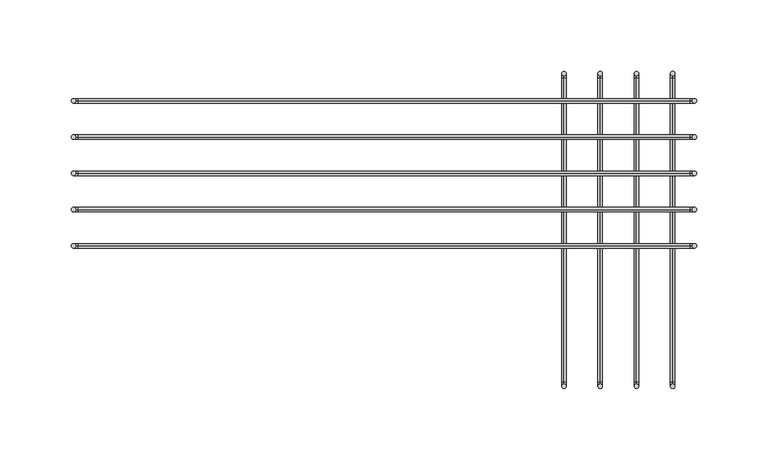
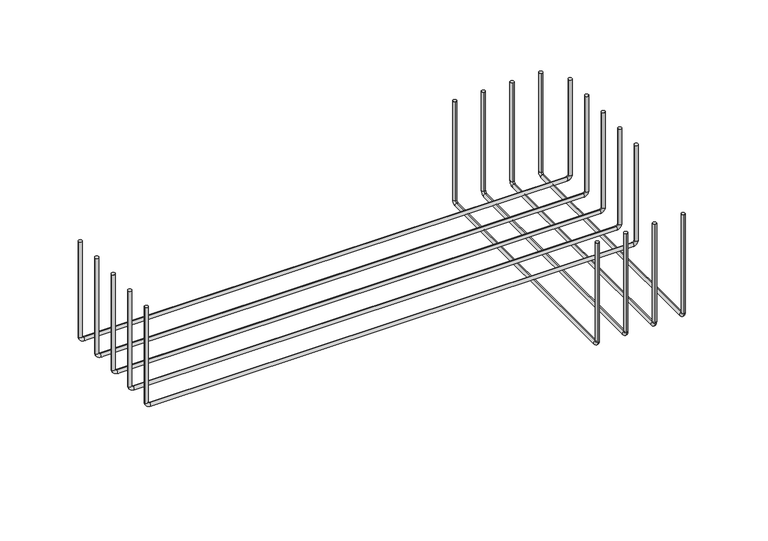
"""IFC4 building model written with IfcOpenShell, lengths in millimetres: furniture geometry."""

from ifc_helpers import new_model, si_unit, point, frame, origin, place, context, project, spatial, circle_curve, ellipse_curve, trimmed, source, transform, mapped, element, save
from ifc_brep_helpers import plane_surface, cylinder_surface, revolved_surface, advanced_brep


def furniture_cac80d98(model_context):
    return source(origin(), model_context, "Body", "AdvancedBrep", [
        advanced_brep(
        [(219.075, 49.2851276, 1249.3942846), (215.9, 49.2851276, 1249.3942846), (-219.075, 49.2851276, 1249.3942846), (-215.9, 49.2851276, 1249.3942846), (219.075, 49.2851276, 1159.700988), (215.9, 49.2851276, 1159.700988), (214.3125, 49.2851276, 1158.113488), (214.3125, 49.2851276, 1154.938488), (-214.3125, 49.2851276, 1154.938488), (-214.3125, 49.2851276, 1158.113488), (-215.9, 49.2851276, 1159.700988), (-219.075, 49.2851276, 1159.700988)],
        [
            (0, 1, circle_curve(frame((217.4875, 49.2851276, 1249.3942846), z_axis=(0.0, 0.0, 1.0), x_axis=(0.0, 1.0, 0.0)), 1.5875)),
            (1, 0, circle_curve(frame((217.4875, 49.2851276, 1249.3942846), z_axis=(0.0, 0.0, 1.0), x_axis=(0.0, 1.0, 0.0)), 1.5875)),
            (2, 3, circle_curve(frame((-217.4875, 49.2851276, 1249.3942846), z_axis=(0.0, 0.0, 1.0), x_axis=(0.0, 1.0, 0.0)), 1.5875)),
            (3, 2, circle_curve(frame((-217.4875, 49.2851276, 1249.3942846), z_axis=(0.0, 0.0, 1.0), x_axis=(0.0, 1.0, 0.0)), 1.5875)),
            (0, 4),
            (4, 5, circle_curve(frame((217.4875, 49.2851276, 1159.700988), z_axis=(0.0, 0.0, 1.0), x_axis=(0.0, 1.0, 0.0)), 1.5875)),
            (5, 1),
            (5, 4, circle_curve(frame((217.4875, 49.2851276, 1159.700988), z_axis=(0.0, 0.0, 1.0), x_axis=(0.0, 1.0, 0.0)), 1.5875)),
            (6, 7, circle_curve(frame((214.3125, 49.2851276, 1156.525988), z_axis=(-1.0, 0.0, 0.0), x_axis=(0.0, 1.0, 0.0)), 1.5875)),
            (7, 8),
            (8, 9, circle_curve(frame((-214.3125, 49.2851276, 1156.525988), z_axis=(1.0, 0.0, 0.0), x_axis=(0.0, 1.0, 0.0)), 1.5875)),
            (9, 6),
            (7, 6, circle_curve(frame((214.3125, 49.2851276, 1156.525988), z_axis=(-1.0, 0.0, 0.0), x_axis=(0.0, 1.0, 0.0)), 1.5875)),
            (9, 8, circle_curve(frame((-214.3125, 49.2851276, 1156.525988), z_axis=(1.0, 0.0, 0.0), x_axis=(0.0, 1.0, 0.0)), 1.5875)),
            (10, 11, circle_curve(frame((-217.4875, 49.2851276, 1159.700988), z_axis=(0.0, 0.0, 1.0), x_axis=(0.0, 1.0, 0.0)), 1.5875)),
            (11, 2),
            (3, 10),
            (11, 10, circle_curve(frame((-217.4875, 49.2851276, 1159.700988), z_axis=(0.0, 0.0, 1.0), x_axis=(0.0, 1.0, 0.0)), 1.5875)),
            (6, 5, circle_curve(frame((214.3125, 49.2851276, 1159.700988), z_axis=(0.0, -1.0, 0.0), x_axis=(1.0, 0.0, 0.0)), 1.5875)),
            (4, 7, circle_curve(frame((214.3125, 49.2851276, 1159.700988), z_axis=(0.0, 1.0, 0.0), x_axis=(1.0, 0.0, 0.0)), 4.7625)),
            (10, 9, circle_curve(frame((-214.3125, 49.2851276, 1159.700988), z_axis=(0.0, -1.0, 0.0), x_axis=(0.0, 0.0, -1.0)), 1.5875)),
            (8, 11, circle_curve(frame((-214.3125, 49.2851276, 1159.700988), z_axis=(0.0, 1.0, 0.0), x_axis=(0.0, 0.0, -1.0)), 4.7625)),
        ],
        [
            plane_surface(frame((219.075, 49.2851276, 1249.3942846), z_axis=(0.0, 0.0, 1.0), x_axis=(0.0, 1.0, 0.0))),
            plane_surface(frame((-219.075, 49.2851276, 1249.3942846), z_axis=(0.0, 0.0, 1.0), x_axis=(0.0, 1.0, 0.0))),
            cylinder_surface(frame((217.4875, 49.2851276, 1249.3942846), z_axis=(0.0, 0.0, 1.0), x_axis=(0.0, 1.0, 0.0)), 1.5875),
            cylinder_surface(frame((214.3125, 49.2851276, 1156.525988), z_axis=(1.0, 0.0, 0.0), x_axis=(0.0, 1.0, 0.0)), 1.5875),
            cylinder_surface(frame((-217.4875, 49.2851276, 1159.700988), z_axis=(0.0, 0.0, -1.0), x_axis=(0.0, 1.0, 0.0)), 1.5875),
            revolved_surface(trimmed(ellipse_curve(frame((217.4875, 49.2851276, 1159.700988), z_axis=(0.0, 0.0, 1.0), x_axis=(0.0, 1.0, 0.0)), 1.5875, 1.5875), [point((219.075, 49.2851276, 1159.700988))], [point((215.9, 49.2851276, 1159.700988))], True, "CARTESIAN"), (214.3125, 49.2851276, 1159.700988), (0.0, 1.0, 0.0)),
            revolved_surface(trimmed(ellipse_curve(frame((217.4875, 49.2851276, 1159.700988), z_axis=(0.0, 0.0, 1.0), x_axis=(0.0, 1.0, 0.0)), 1.5875, 1.5875), [point((215.9, 49.2851276, 1159.700988))], [point((219.075, 49.2851276, 1159.700988))], True, "CARTESIAN"), (214.3125, 49.2851276, 1159.700988), (0.0, 1.0, 0.0)),
            revolved_surface(trimmed(ellipse_curve(frame((-214.3125, 49.2851276, 1156.525988), z_axis=(1.0, 0.0, 0.0), x_axis=(0.0, 1.0, 0.0)), 1.5875, 1.5875), [point((-214.3125, 49.2851276, 1154.938488))], [point((-214.3125, 49.2851276, 1158.113488))], True, "CARTESIAN"), (-214.3125, 49.2851276, 1159.700988), (0.0, 1.0, 0.0)),
            revolved_surface(trimmed(ellipse_curve(frame((-214.3125, 49.2851276, 1156.525988), z_axis=(1.0, 0.0, 0.0), x_axis=(0.0, 1.0, 0.0)), 1.5875, 1.5875), [point((-214.3125, 49.2851276, 1158.113488))], [point((-214.3125, 49.2851276, 1154.938488))], True, "CARTESIAN"), (-214.3125, 49.2851276, 1159.700988), (0.0, 1.0, 0.0)),
        ],
        [
            (0, [[1, 2]]),
            (1, [[3, 4]]),
            (2, [[-1, 5, 6, 7]]),
            (2, [[-2, -7, 8, -5]]),
            (3, [[9, 10, 11, 12]]),
            (3, [[13, -12, 14, -10]]),
            (4, [[15, 16, -4, 17]]),
            (4, [[18, -17, -3, -16]]),
            (5, [[19, -6, 20, -9]]),
            (6, [[-20, -8, -19, -13]]),
            (7, [[21, -11, 22, -15]]),
            (8, [[-22, -14, -21, -18]]),
        ],
    ),
        advanced_brep(
        [(219.075, 23.8851276, 1249.3942846), (215.9, 23.8851276, 1249.3942846), (-219.075, 23.8851276, 1249.3942846), (-215.9, 23.8851276, 1249.3942846), (219.075, 23.8851276, 1159.700988), (215.9, 23.8851276, 1159.700988), (214.3125, 23.8851276, 1158.113488), (214.3125, 23.8851276, 1154.938488), (-214.3125, 23.8851276, 1154.938488), (-214.3125, 23.8851276, 1158.113488), (-215.9, 23.8851276, 1159.700988), (-219.075, 23.8851276, 1159.700988)],
        [
            (0, 1, circle_curve(frame((217.4875, 23.8851276, 1249.3942846), z_axis=(0.0, 0.0, 1.0), x_axis=(0.0, 1.0, 0.0)), 1.5875)),
            (1, 0, circle_curve(frame((217.4875, 23.8851276, 1249.3942846), z_axis=(0.0, 0.0, 1.0), x_axis=(0.0, 1.0, 0.0)), 1.5875)),
            (2, 3, circle_curve(frame((-217.4875, 23.8851276, 1249.3942846), z_axis=(0.0, 0.0, 1.0), x_axis=(0.0, 1.0, 0.0)), 1.5875)),
            (3, 2, circle_curve(frame((-217.4875, 23.8851276, 1249.3942846), z_axis=(0.0, 0.0, 1.0), x_axis=(0.0, 1.0, 0.0)), 1.5875)),
            (0, 4),
            (4, 5, circle_curve(frame((217.4875, 23.8851276, 1159.700988), z_axis=(0.0, 0.0, 1.0), x_axis=(0.0, 1.0, 0.0)), 1.5875)),
            (5, 1),
            (5, 4, circle_curve(frame((217.4875, 23.8851276, 1159.700988), z_axis=(0.0, 0.0, 1.0), x_axis=(0.0, 1.0, 0.0)), 1.5875)),
            (6, 7, circle_curve(frame((214.3125, 23.8851276, 1156.525988), z_axis=(-1.0, 0.0, 0.0), x_axis=(0.0, 1.0, 0.0)), 1.5875)),
            (7, 8),
            (8, 9, circle_curve(frame((-214.3125, 23.8851276, 1156.525988), z_axis=(1.0, 0.0, 0.0), x_axis=(0.0, 1.0, 0.0)), 1.5875)),
            (9, 6),
            (7, 6, circle_curve(frame((214.3125, 23.8851276, 1156.525988), z_axis=(-1.0, 0.0, 0.0), x_axis=(0.0, 1.0, 0.0)), 1.5875)),
            (9, 8, circle_curve(frame((-214.3125, 23.8851276, 1156.525988), z_axis=(1.0, 0.0, 0.0), x_axis=(0.0, 1.0, 0.0)), 1.5875)),
            (10, 11, circle_curve(frame((-217.4875, 23.8851276, 1159.700988), z_axis=(0.0, 0.0, 1.0), x_axis=(0.0, 1.0, 0.0)), 1.5875)),
            (11, 2),
            (3, 10),
            (11, 10, circle_curve(frame((-217.4875, 23.8851276, 1159.700988), z_axis=(0.0, 0.0, 1.0), x_axis=(0.0, 1.0, 0.0)), 1.5875)),
            (6, 5, circle_curve(frame((214.3125, 23.8851276, 1159.700988), z_axis=(0.0, -1.0, 0.0), x_axis=(1.0, 0.0, 0.0)), 1.5875)),
            (4, 7, circle_curve(frame((214.3125, 23.8851276, 1159.700988), z_axis=(0.0, 1.0, 0.0), x_axis=(1.0, 0.0, 0.0)), 4.7625)),
            (10, 9, circle_curve(frame((-214.3125, 23.8851276, 1159.700988), z_axis=(0.0, -1.0, 0.0), x_axis=(0.0, 0.0, -1.0)), 1.5875)),
            (8, 11, circle_curve(frame((-214.3125, 23.8851276, 1159.700988), z_axis=(0.0, 1.0, 0.0), x_axis=(0.0, 0.0, -1.0)), 4.7625)),
        ],
        [
            plane_surface(frame((219.075, 23.8851276, 1249.3942846), z_axis=(0.0, 0.0, 1.0), x_axis=(0.0, 1.0, 0.0))),
            plane_surface(frame((-219.075, 23.8851276, 1249.3942846), z_axis=(0.0, 0.0, 1.0), x_axis=(0.0, 1.0, 0.0))),
            cylinder_surface(frame((217.4875, 23.8851276, 1249.3942846), z_axis=(0.0, 0.0, 1.0), x_axis=(0.0, 1.0, 0.0)), 1.5875),
            cylinder_surface(frame((214.3125, 23.8851276, 1156.525988), z_axis=(1.0, 0.0, 0.0), x_axis=(0.0, 1.0, 0.0)), 1.5875),
            cylinder_surface(frame((-217.4875, 23.8851276, 1159.700988), z_axis=(0.0, 0.0, -1.0), x_axis=(0.0, 1.0, 0.0)), 1.5875),
            revolved_surface(trimmed(ellipse_curve(frame((217.4875, 23.8851276, 1159.700988), z_axis=(0.0, 0.0, 1.0), x_axis=(0.0, 1.0, 0.0)), 1.5875, 1.5875), [point((219.075, 23.8851276, 1159.700988))], [point((215.9, 23.8851276, 1159.700988))], True, "CARTESIAN"), (214.3125, 23.8851276, 1159.700988), (0.0, 1.0, 0.0)),
            revolved_surface(trimmed(ellipse_curve(frame((217.4875, 23.8851276, 1159.700988), z_axis=(0.0, 0.0, 1.0), x_axis=(0.0, 1.0, 0.0)), 1.5875, 1.5875), [point((215.9, 23.8851276, 1159.700988))], [point((219.075, 23.8851276, 1159.700988))], True, "CARTESIAN"), (214.3125, 23.8851276, 1159.700988), (0.0, 1.0, 0.0)),
            revolved_surface(trimmed(ellipse_curve(frame((-214.3125, 23.8851276, 1156.525988), z_axis=(1.0, 0.0, 0.0), x_axis=(0.0, 1.0, 0.0)), 1.5875, 1.5875), [point((-214.3125, 23.8851276, 1154.938488))], [point((-214.3125, 23.8851276, 1158.113488))], True, "CARTESIAN"), (-214.3125, 23.8851276, 1159.700988), (0.0, 1.0, 0.0)),
            revolved_surface(trimmed(ellipse_curve(frame((-214.3125, 23.8851276, 1156.525988), z_axis=(1.0, 0.0, 0.0), x_axis=(0.0, 1.0, 0.0)), 1.5875, 1.5875), [point((-214.3125, 23.8851276, 1158.113488))], [point((-214.3125, 23.8851276, 1154.938488))], True, "CARTESIAN"), (-214.3125, 23.8851276, 1159.700988), (0.0, 1.0, 0.0)),
        ],
        [
            (0, [[1, 2]]),
            (1, [[3, 4]]),
            (2, [[-1, 5, 6, 7]]),
            (2, [[-2, -7, 8, -5]]),
            (3, [[9, 10, 11, 12]]),
            (3, [[13, -12, 14, -10]]),
            (4, [[15, 16, -4, 17]]),
            (4, [[18, -17, -3, -16]]),
            (5, [[19, -6, 20, -9]]),
            (6, [[-20, -8, -19, -13]]),
            (7, [[21, -11, 22, -15]]),
            (8, [[-22, -14, -21, -18]]),
        ],
    ),
        advanced_brep(
        [(219.075, -1.5148724, 1249.3942846), (215.9, -1.5148724, 1249.3942846), (-219.075, -1.5148724, 1249.3942846), (-215.9, -1.5148724, 1249.3942846), (219.075, -1.5148724, 1159.700988), (215.9, -1.5148724, 1159.700988), (214.3125, -1.5148724, 1158.113488), (214.3125, -1.5148724, 1154.938488), (-214.3125, -1.5148724, 1154.938488), (-214.3125, -1.5148724, 1158.113488), (-215.9, -1.5148724, 1159.700988), (-219.075, -1.5148724, 1159.700988)],
        [
            (0, 1, circle_curve(frame((217.4875, -1.5148724, 1249.3942846), z_axis=(0.0, 0.0, 1.0), x_axis=(0.0, 1.0, 0.0)), 1.5875)),
            (1, 0, circle_curve(frame((217.4875, -1.5148724, 1249.3942846), z_axis=(0.0, 0.0, 1.0), x_axis=(0.0, 1.0, 0.0)), 1.5875)),
            (2, 3, circle_curve(frame((-217.4875, -1.5148724, 1249.3942846), z_axis=(0.0, 0.0, 1.0), x_axis=(0.0, 1.0, 0.0)), 1.5875)),
            (3, 2, circle_curve(frame((-217.4875, -1.5148724, 1249.3942846), z_axis=(0.0, 0.0, 1.0), x_axis=(0.0, 1.0, 0.0)), 1.5875)),
            (0, 4),
            (4, 5, circle_curve(frame((217.4875, -1.5148724, 1159.700988), z_axis=(0.0, 0.0, 1.0), x_axis=(0.0, 1.0, 0.0)), 1.5875)),
            (5, 1),
            (5, 4, circle_curve(frame((217.4875, -1.5148724, 1159.700988), z_axis=(0.0, 0.0, 1.0), x_axis=(0.0, 1.0, 0.0)), 1.5875)),
            (6, 7, circle_curve(frame((214.3125, -1.5148724, 1156.525988), z_axis=(-1.0, 0.0, 0.0), x_axis=(0.0, 1.0, 0.0)), 1.5875)),
            (7, 8),
            (8, 9, circle_curve(frame((-214.3125, -1.5148724, 1156.525988), z_axis=(1.0, 0.0, 0.0), x_axis=(0.0, 1.0, 0.0)), 1.5875)),
            (9, 6),
            (7, 6, circle_curve(frame((214.3125, -1.5148724, 1156.525988), z_axis=(-1.0, 0.0, 0.0), x_axis=(0.0, 1.0, 0.0)), 1.5875)),
            (9, 8, circle_curve(frame((-214.3125, -1.5148724, 1156.525988), z_axis=(1.0, 0.0, 0.0), x_axis=(0.0, 1.0, 0.0)), 1.5875)),
            (10, 11, circle_curve(frame((-217.4875, -1.5148724, 1159.700988), z_axis=(0.0, 0.0, 1.0), x_axis=(0.0, 1.0, 0.0)), 1.5875)),
            (11, 2),
            (3, 10),
            (11, 10, circle_curve(frame((-217.4875, -1.5148724, 1159.700988), z_axis=(0.0, 0.0, 1.0), x_axis=(0.0, 1.0, 0.0)), 1.5875)),
            (6, 5, circle_curve(frame((214.3125, -1.5148724, 1159.700988), z_axis=(0.0, -1.0, 0.0), x_axis=(1.0, 0.0, 0.0)), 1.5875)),
            (4, 7, circle_curve(frame((214.3125, -1.5148724, 1159.700988), z_axis=(0.0, 1.0, 0.0), x_axis=(1.0, 0.0, 0.0)), 4.7625)),
            (10, 9, circle_curve(frame((-214.3125, -1.5148724, 1159.700988), z_axis=(0.0, -1.0, 0.0), x_axis=(0.0, 0.0, -1.0)), 1.5875)),
            (8, 11, circle_curve(frame((-214.3125, -1.5148724, 1159.700988), z_axis=(0.0, 1.0, 0.0), x_axis=(0.0, 0.0, -1.0)), 4.7625)),
        ],
        [
            plane_surface(frame((219.075, -1.5148724, 1249.3942846), z_axis=(0.0, 0.0, 1.0), x_axis=(0.0, 1.0, 0.0))),
            plane_surface(frame((-219.075, -1.5148724, 1249.3942846), z_axis=(0.0, 0.0, 1.0), x_axis=(0.0, 1.0, 0.0))),
            cylinder_surface(frame((217.4875, -1.5148724, 1249.3942846), z_axis=(0.0, 0.0, 1.0), x_axis=(0.0, 1.0, 0.0)), 1.5875),
            cylinder_surface(frame((214.3125, -1.5148724, 1156.525988), z_axis=(1.0, 0.0, 0.0), x_axis=(0.0, 1.0, 0.0)), 1.5875),
            cylinder_surface(frame((-217.4875, -1.5148724, 1159.700988), z_axis=(0.0, 0.0, -1.0), x_axis=(0.0, 1.0, 0.0)), 1.5875),
            revolved_surface(trimmed(ellipse_curve(frame((217.4875, -1.5148724, 1159.700988), z_axis=(0.0, 0.0, 1.0), x_axis=(0.0, 1.0, 0.0)), 1.5875, 1.5875), [point((219.075, -1.5148724, 1159.700988))], [point((215.9, -1.5148724, 1159.700988))], True, "CARTESIAN"), (214.3125, -1.5148724, 1159.700988), (0.0, 1.0, 0.0)),
            revolved_surface(trimmed(ellipse_curve(frame((217.4875, -1.5148724, 1159.700988), z_axis=(0.0, 0.0, 1.0), x_axis=(0.0, 1.0, 0.0)), 1.5875, 1.5875), [point((215.9, -1.5148724, 1159.700988))], [point((219.075, -1.5148724, 1159.700988))], True, "CARTESIAN"), (214.3125, -1.5148724, 1159.700988), (0.0, 1.0, 0.0)),
            revolved_surface(trimmed(ellipse_curve(frame((-214.3125, -1.5148724, 1156.525988), z_axis=(1.0, 0.0, 0.0), x_axis=(0.0, 1.0, 0.0)), 1.5875, 1.5875), [point((-214.3125, -1.5148724, 1154.938488))], [point((-214.3125, -1.5148724, 1158.113488))], True, "CARTESIAN"), (-214.3125, -1.5148724, 1159.700988), (0.0, 1.0, 0.0)),
            revolved_surface(trimmed(ellipse_curve(frame((-214.3125, -1.5148724, 1156.525988), z_axis=(1.0, 0.0, 0.0), x_axis=(0.0, 1.0, 0.0)), 1.5875, 1.5875), [point((-214.3125, -1.5148724, 1158.113488))], [point((-214.3125, -1.5148724, 1154.938488))], True, "CARTESIAN"), (-214.3125, -1.5148724, 1159.700988), (0.0, 1.0, 0.0)),
        ],
        [
            (0, [[1, 2]]),
            (1, [[3, 4]]),
            (2, [[-1, 5, 6, 7]]),
            (2, [[-2, -7, 8, -5]]),
            (3, [[9, 10, 11, 12]]),
            (3, [[13, -12, 14, -10]]),
            (4, [[15, 16, -4, 17]]),
            (4, [[18, -17, -3, -16]]),
            (5, [[19, -6, 20, -9]]),
            (6, [[-20, -8, -19, -13]]),
            (7, [[21, -11, 22, -15]]),
            (8, [[-22, -14, -21, -18]]),
        ],
    ),
        advanced_brep(
        [(219.075, -26.9148724, 1249.3942846), (215.9, -26.9148724, 1249.3942846), (-219.075, -26.9148724, 1249.3942846), (-215.9, -26.9148724, 1249.3942846), (219.075, -26.9148724, 1159.700988), (215.9, -26.9148724, 1159.700988), (214.3125, -26.9148724, 1158.113488), (214.3125, -26.9148724, 1154.938488), (-214.3125, -26.9148724, 1154.938488), (-214.3125, -26.9148724, 1158.113488), (-215.9, -26.9148724, 1159.700988), (-219.075, -26.9148724, 1159.700988)],
        [
            (0, 1, circle_curve(frame((217.4875, -26.9148724, 1249.3942846), z_axis=(0.0, 0.0, 1.0), x_axis=(0.0, 1.0, 0.0)), 1.5875)),
            (1, 0, circle_curve(frame((217.4875, -26.9148724, 1249.3942846), z_axis=(0.0, 0.0, 1.0), x_axis=(0.0, 1.0, 0.0)), 1.5875)),
            (2, 3, circle_curve(frame((-217.4875, -26.9148724, 1249.3942846), z_axis=(0.0, 0.0, 1.0), x_axis=(0.0, 1.0, 0.0)), 1.5875)),
            (3, 2, circle_curve(frame((-217.4875, -26.9148724, 1249.3942846), z_axis=(0.0, 0.0, 1.0), x_axis=(0.0, 1.0, 0.0)), 1.5875)),
            (0, 4),
            (4, 5, circle_curve(frame((217.4875, -26.9148724, 1159.700988), z_axis=(0.0, 0.0, 1.0), x_axis=(0.0, 1.0, 0.0)), 1.5875)),
            (5, 1),
            (5, 4, circle_curve(frame((217.4875, -26.9148724, 1159.700988), z_axis=(0.0, 0.0, 1.0), x_axis=(0.0, 1.0, 0.0)), 1.5875)),
            (6, 7, circle_curve(frame((214.3125, -26.9148724, 1156.525988), z_axis=(-1.0, 0.0, 0.0), x_axis=(0.0, 1.0, 0.0)), 1.5875)),
            (7, 8),
            (8, 9, circle_curve(frame((-214.3125, -26.9148724, 1156.525988), z_axis=(1.0, 0.0, 0.0), x_axis=(0.0, 1.0, 0.0)), 1.5875)),
            (9, 6),
            (7, 6, circle_curve(frame((214.3125, -26.9148724, 1156.525988), z_axis=(-1.0, 0.0, 0.0), x_axis=(0.0, 1.0, 0.0)), 1.5875)),
            (9, 8, circle_curve(frame((-214.3125, -26.9148724, 1156.525988), z_axis=(1.0, 0.0, 0.0), x_axis=(0.0, 1.0, 0.0)), 1.5875)),
            (10, 11, circle_curve(frame((-217.4875, -26.9148724, 1159.700988), z_axis=(0.0, 0.0, 1.0), x_axis=(0.0, 1.0, 0.0)), 1.5875)),
            (11, 2),
            (3, 10),
            (11, 10, circle_curve(frame((-217.4875, -26.9148724, 1159.700988), z_axis=(0.0, 0.0, 1.0), x_axis=(0.0, 1.0, 0.0)), 1.5875)),
            (6, 5, circle_curve(frame((214.3125, -26.9148724, 1159.700988), z_axis=(0.0, -1.0, 0.0), x_axis=(1.0, 0.0, 0.0)), 1.5875)),
            (4, 7, circle_curve(frame((214.3125, -26.9148724, 1159.700988), z_axis=(0.0, 1.0, 0.0), x_axis=(1.0, 0.0, 0.0)), 4.7625)),
            (10, 9, circle_curve(frame((-214.3125, -26.9148724, 1159.700988), z_axis=(0.0, -1.0, 0.0), x_axis=(0.0, 0.0, -1.0)), 1.5875)),
            (8, 11, circle_curve(frame((-214.3125, -26.9148724, 1159.700988), z_axis=(0.0, 1.0, 0.0), x_axis=(0.0, 0.0, -1.0)), 4.7625)),
        ],
        [
            plane_surface(frame((219.075, -26.9148724, 1249.3942846), z_axis=(0.0, 0.0, 1.0), x_axis=(0.0, 1.0, 0.0))),
            plane_surface(frame((-219.075, -26.9148724, 1249.3942846), z_axis=(0.0, 0.0, 1.0), x_axis=(0.0, 1.0, 0.0))),
            cylinder_surface(frame((217.4875, -26.9148724, 1249.3942846), z_axis=(0.0, 0.0, 1.0), x_axis=(0.0, 1.0, 0.0)), 1.5875),
            cylinder_surface(frame((214.3125, -26.9148724, 1156.525988), z_axis=(1.0, 0.0, 0.0), x_axis=(0.0, 1.0, 0.0)), 1.5875),
            cylinder_surface(frame((-217.4875, -26.9148724, 1159.700988), z_axis=(0.0, 0.0, -1.0), x_axis=(0.0, 1.0, 0.0)), 1.5875),
            revolved_surface(trimmed(ellipse_curve(frame((217.4875, -26.9148724, 1159.700988), z_axis=(0.0, 0.0, 1.0), x_axis=(0.0, 1.0, 0.0)), 1.5875, 1.5875), [point((219.075, -26.9148724, 1159.700988))], [point((215.9, -26.9148724, 1159.700988))], True, "CARTESIAN"), (214.3125, -26.9148724, 1159.700988), (0.0, 1.0, 0.0)),
            revolved_surface(trimmed(ellipse_curve(frame((217.4875, -26.9148724, 1159.700988), z_axis=(0.0, 0.0, 1.0), x_axis=(0.0, 1.0, 0.0)), 1.5875, 1.5875), [point((215.9, -26.9148724, 1159.700988))], [point((219.075, -26.9148724, 1159.700988))], True, "CARTESIAN"), (214.3125, -26.9148724, 1159.700988), (0.0, 1.0, 0.0)),
            revolved_surface(trimmed(ellipse_curve(frame((-214.3125, -26.9148724, 1156.525988), z_axis=(1.0, 0.0, 0.0), x_axis=(0.0, 1.0, 0.0)), 1.5875, 1.5875), [point((-214.3125, -26.9148724, 1154.938488))], [point((-214.3125, -26.9148724, 1158.113488))], True, "CARTESIAN"), (-214.3125, -26.9148724, 1159.700988), (0.0, 1.0, 0.0)),
            revolved_surface(trimmed(ellipse_curve(frame((-214.3125, -26.9148724, 1156.525988), z_axis=(1.0, 0.0, 0.0), x_axis=(0.0, 1.0, 0.0)), 1.5875, 1.5875), [point((-214.3125, -26.9148724, 1158.113488))], [point((-214.3125, -26.9148724, 1154.938488))], True, "CARTESIAN"), (-214.3125, -26.9148724, 1159.700988), (0.0, 1.0, 0.0)),
        ],
        [
            (0, [[1, 2]]),
            (1, [[3, 4]]),
            (2, [[-1, 5, 6, 7]]),
            (2, [[-2, -7, 8, -5]]),
            (3, [[9, 10, 11, 12]]),
            (3, [[13, -12, 14, -10]]),
            (4, [[15, 16, -4, 17]]),
            (4, [[18, -17, -3, -16]]),
            (5, [[19, -6, 20, -9]]),
            (6, [[-20, -8, -19, -13]]),
            (7, [[21, -11, 22, -15]]),
            (8, [[-22, -14, -21, -18]]),
        ],
    ),
        advanced_brep(
        [(219.075, -52.3148724, 1249.3942846), (215.9, -52.3148724, 1249.3942846), (-219.075, -52.3148724, 1249.3942846), (-215.9, -52.3148724, 1249.3942846), (219.075, -52.3148724, 1159.700988), (215.9, -52.3148724, 1159.700988), (214.3125, -52.3148724, 1158.113488), (214.3125, -52.3148724, 1154.938488), (-214.3125, -52.3148724, 1154.938488), (-214.3125, -52.3148724, 1158.113488), (-215.9, -52.3148724, 1159.700988), (-219.075, -52.3148724, 1159.700988)],
        [
            (0, 1, circle_curve(frame((217.4875, -52.3148724, 1249.3942846), z_axis=(0.0, 0.0, 1.0), x_axis=(0.0, 1.0, 0.0)), 1.5875)),
            (1, 0, circle_curve(frame((217.4875, -52.3148724, 1249.3942846), z_axis=(0.0, 0.0, 1.0), x_axis=(0.0, 1.0, 0.0)), 1.5875)),
            (2, 3, circle_curve(frame((-217.4875, -52.3148724, 1249.3942846), z_axis=(0.0, 0.0, 1.0), x_axis=(0.0, 1.0, 0.0)), 1.5875)),
            (3, 2, circle_curve(frame((-217.4875, -52.3148724, 1249.3942846), z_axis=(0.0, 0.0, 1.0), x_axis=(0.0, 1.0, 0.0)), 1.5875)),
            (0, 4),
            (4, 5, circle_curve(frame((217.4875, -52.3148724, 1159.700988), z_axis=(0.0, 0.0, 1.0), x_axis=(0.0, 1.0, 0.0)), 1.5875)),
            (5, 1),
            (5, 4, circle_curve(frame((217.4875, -52.3148724, 1159.700988), z_axis=(0.0, 0.0, 1.0), x_axis=(0.0, 1.0, 0.0)), 1.5875)),
            (6, 7, circle_curve(frame((214.3125, -52.3148724, 1156.525988), z_axis=(-1.0, 0.0, 0.0), x_axis=(0.0, 1.0, 0.0)), 1.5875)),
            (7, 8),
            (8, 9, circle_curve(frame((-214.3125, -52.3148724, 1156.525988), z_axis=(1.0, 0.0, 0.0), x_axis=(0.0, 1.0, 0.0)), 1.5875)),
            (9, 6),
            (7, 6, circle_curve(frame((214.3125, -52.3148724, 1156.525988), z_axis=(-1.0, 0.0, 0.0), x_axis=(0.0, 1.0, 0.0)), 1.5875)),
            (9, 8, circle_curve(frame((-214.3125, -52.3148724, 1156.525988), z_axis=(1.0, 0.0, 0.0), x_axis=(0.0, 1.0, 0.0)), 1.5875)),
            (10, 11, circle_curve(frame((-217.4875, -52.3148724, 1159.700988), z_axis=(0.0, 0.0, 1.0), x_axis=(0.0, 1.0, 0.0)), 1.5875)),
            (11, 2),
            (3, 10),
            (11, 10, circle_curve(frame((-217.4875, -52.3148724, 1159.700988), z_axis=(0.0, 0.0, 1.0), x_axis=(0.0, 1.0, 0.0)), 1.5875)),
            (6, 5, circle_curve(frame((214.3125, -52.3148724, 1159.700988), z_axis=(0.0, -1.0, 0.0), x_axis=(1.0, 0.0, 0.0)), 1.5875)),
            (4, 7, circle_curve(frame((214.3125, -52.3148724, 1159.700988), z_axis=(0.0, 1.0, 0.0), x_axis=(1.0, 0.0, 0.0)), 4.7625)),
            (10, 9, circle_curve(frame((-214.3125, -52.3148724, 1159.700988), z_axis=(0.0, -1.0, 0.0), x_axis=(0.0, 0.0, -1.0)), 1.5875)),
            (8, 11, circle_curve(frame((-214.3125, -52.3148724, 1159.700988), z_axis=(0.0, 1.0, 0.0), x_axis=(0.0, 0.0, -1.0)), 4.7625)),
        ],
        [
            plane_surface(frame((219.075, -52.3148724, 1249.3942846), z_axis=(0.0, 0.0, 1.0), x_axis=(0.0, 1.0, 0.0))),
            plane_surface(frame((-219.075, -52.3148724, 1249.3942846), z_axis=(0.0, 0.0, 1.0), x_axis=(0.0, 1.0, 0.0))),
            cylinder_surface(frame((217.4875, -52.3148724, 1249.3942846), z_axis=(0.0, 0.0, 1.0), x_axis=(0.0, 1.0, 0.0)), 1.5875),
            cylinder_surface(frame((214.3125, -52.3148724, 1156.525988), z_axis=(1.0, 0.0, 0.0), x_axis=(0.0, 1.0, 0.0)), 1.5875),
            cylinder_surface(frame((-217.4875, -52.3148724, 1159.700988), z_axis=(0.0, 0.0, -1.0), x_axis=(0.0, 1.0, 0.0)), 1.5875),
            revolved_surface(trimmed(ellipse_curve(frame((217.4875, -52.3148724, 1159.700988), z_axis=(0.0, 0.0, 1.0), x_axis=(0.0, 1.0, 0.0)), 1.5875, 1.5875), [point((219.075, -52.3148724, 1159.700988))], [point((215.9, -52.3148724, 1159.700988))], True, "CARTESIAN"), (214.3125, -52.3148724, 1159.700988), (0.0, 1.0, 0.0)),
            revolved_surface(trimmed(ellipse_curve(frame((217.4875, -52.3148724, 1159.700988), z_axis=(0.0, 0.0, 1.0), x_axis=(0.0, 1.0, 0.0)), 1.5875, 1.5875), [point((215.9, -52.3148724, 1159.700988))], [point((219.075, -52.3148724, 1159.700988))], True, "CARTESIAN"), (214.3125, -52.3148724, 1159.700988), (0.0, 1.0, 0.0)),
            revolved_surface(trimmed(ellipse_curve(frame((-214.3125, -52.3148724, 1156.525988), z_axis=(1.0, 0.0, 0.0), x_axis=(0.0, 1.0, 0.0)), 1.5875, 1.5875), [point((-214.3125, -52.3148724, 1154.938488))], [point((-214.3125, -52.3148724, 1158.113488))], True, "CARTESIAN"), (-214.3125, -52.3148724, 1159.700988), (0.0, 1.0, 0.0)),
            revolved_surface(trimmed(ellipse_curve(frame((-214.3125, -52.3148724, 1156.525988), z_axis=(1.0, 0.0, 0.0), x_axis=(0.0, 1.0, 0.0)), 1.5875, 1.5875), [point((-214.3125, -52.3148724, 1158.113488))], [point((-214.3125, -52.3148724, 1154.938488))], True, "CARTESIAN"), (-214.3125, -52.3148724, 1159.700988), (0.0, 1.0, 0.0)),
        ],
        [
            (0, [[1, 2]]),
            (1, [[3, 4]]),
            (2, [[-1, 5, 6, 7]]),
            (2, [[-2, -7, 8, -5]]),
            (3, [[9, 10, 11, 12]]),
            (3, [[13, -12, 14, -10]]),
            (4, [[15, 16, -4, 17]]),
            (4, [[18, -17, -3, -16]]),
            (5, [[19, -6, 20, -9]]),
            (6, [[-20, -8, -19, -13]]),
            (7, [[21, -11, 22, -15]]),
            (8, [[-22, -14, -21, -18]]),
        ],
    ),
        advanced_brep(
        [(202.31608, -152.3273724, 1249.3942846), (202.31608, -149.1523724, 1249.3942846), (202.31608, 69.9226276, 1249.3942846), (202.31608, 66.7476276, 1249.3942846), (202.31608, -152.3273724, 1156.525988), (202.31608, -149.1523724, 1156.525988), (202.31608, -147.5648724, 1154.938488), (202.31608, -147.5648724, 1151.763488), (202.31608, 65.1601276, 1151.763488), (202.31608, 65.1601276, 1154.938488), (202.31608, 66.7476276, 1156.525988), (202.31608, 69.9226276, 1156.525988)],
        [
            (0, 1, circle_curve(frame((202.31608, -150.7398724, 1249.3942846), z_axis=(0.0, 0.0, 1.0), x_axis=(1.0, 0.0, 0.0)), 1.5875)),
            (1, 0, circle_curve(frame((202.31608, -150.7398724, 1249.3942846), z_axis=(0.0, 0.0, 1.0), x_axis=(1.0, 0.0, 0.0)), 1.5875)),
            (2, 3, circle_curve(frame((202.31608, 68.3351276, 1249.3942846), z_axis=(0.0, 0.0, 1.0), x_axis=(1.0, 0.0, 0.0)), 1.5875)),
            (3, 2, circle_curve(frame((202.31608, 68.3351276, 1249.3942846), z_axis=(0.0, 0.0, 1.0), x_axis=(1.0, 0.0, 0.0)), 1.5875)),
            (0, 4),
            (4, 5, circle_curve(frame((202.31608, -150.7398724, 1156.525988), z_axis=(0.0, 0.0, 1.0), x_axis=(1.0, 0.0, 0.0)), 1.5875)),
            (5, 1),
            (5, 4, circle_curve(frame((202.31608, -150.7398724, 1156.525988), z_axis=(0.0, 0.0, 1.0), x_axis=(1.0, 0.0, 0.0)), 1.5875)),
            (6, 7, circle_curve(frame((202.31608, -147.5648724, 1153.350988), z_axis=(0.0, 1.0, 0.0), x_axis=(1.0, 0.0, 0.0)), 1.5875)),
            (7, 8),
            (8, 9, circle_curve(frame((202.31608, 65.1601276, 1153.350988), z_axis=(0.0, -1.0, 0.0), x_axis=(1.0, 0.0, 0.0)), 1.5875)),
            (9, 6),
            (7, 6, circle_curve(frame((202.31608, -147.5648724, 1153.350988), z_axis=(0.0, 1.0, 0.0), x_axis=(1.0, 0.0, 0.0)), 1.5875)),
            (9, 8, circle_curve(frame((202.31608, 65.1601276, 1153.350988), z_axis=(0.0, -1.0, 0.0), x_axis=(1.0, 0.0, 0.0)), 1.5875)),
            (10, 11, circle_curve(frame((202.31608, 68.3351276, 1156.525988), z_axis=(0.0, 0.0, 1.0), x_axis=(1.0, 0.0, 0.0)), 1.5875)),
            (11, 2),
            (3, 10),
            (11, 10, circle_curve(frame((202.31608, 68.3351276, 1156.525988), z_axis=(0.0, 0.0, 1.0), x_axis=(1.0, 0.0, 0.0)), 1.5875)),
            (6, 5, circle_curve(frame((202.31608, -147.5648724, 1156.525988), z_axis=(-1.0, 0.0, 0.0), x_axis=(0.0, -1.0, 0.0)), 1.5875)),
            (4, 7, circle_curve(frame((202.31608, -147.5648724, 1156.525988), z_axis=(1.0, 0.0, 0.0), x_axis=(0.0, -1.0, 0.0)), 4.7625)),
            (10, 9, circle_curve(frame((202.31608, 65.1601276, 1156.525988), z_axis=(-1.0, 0.0, 0.0), x_axis=(0.0, 0.0, -1.0)), 1.5875)),
            (8, 11, circle_curve(frame((202.31608, 65.1601276, 1156.525988), z_axis=(1.0, 0.0, 0.0), x_axis=(0.0, 0.0, -1.0)), 4.7625)),
        ],
        [
            plane_surface(frame((202.31608, -152.3273724, 1249.3942846), z_axis=(0.0, 0.0, 1.0), x_axis=(1.0, 0.0, 0.0))),
            plane_surface(frame((202.31608, 69.9226276, 1249.3942846), z_axis=(0.0, 0.0, 1.0), x_axis=(1.0, 0.0, 0.0))),
            cylinder_surface(frame((202.31608, -150.7398724, 1249.3942846), z_axis=(0.0, 0.0, 1.0), x_axis=(1.0, 0.0, 0.0)), 1.5875),
            cylinder_surface(frame((202.31608, -147.5648724, 1153.350988), z_axis=(0.0, -1.0, 0.0), x_axis=(1.0, 0.0, 0.0)), 1.5875),
            cylinder_surface(frame((202.31608, 68.3351276, 1156.525988), z_axis=(0.0, 0.0, -1.0), x_axis=(1.0, 0.0, 0.0)), 1.5875),
            revolved_surface(trimmed(ellipse_curve(frame((202.31608, -150.7398724, 1156.525988), z_axis=(0.0, 0.0, 1.0), x_axis=(1.0, 0.0, 0.0)), 1.5875, 1.5875), [point((202.31608, -152.3273724, 1156.525988))], [point((202.31608, -149.1523724, 1156.525988))], True, "CARTESIAN"), (202.31608, -147.5648724, 1156.525988), (1.0, 0.0, 0.0)),
            revolved_surface(trimmed(ellipse_curve(frame((202.31608, -150.7398724, 1156.525988), z_axis=(0.0, 0.0, 1.0), x_axis=(1.0, 0.0, 0.0)), 1.5875, 1.5875), [point((202.31608, -149.1523724, 1156.525988))], [point((202.31608, -152.3273724, 1156.525988))], True, "CARTESIAN"), (202.31608, -147.5648724, 1156.525988), (1.0, 0.0, 0.0)),
            revolved_surface(trimmed(ellipse_curve(frame((202.31608, 65.1601276, 1153.350988), z_axis=(0.0, -1.0, 0.0), x_axis=(1.0, 0.0, 0.0)), 1.5875, 1.5875), [point((202.31608, 65.1601276, 1151.763488))], [point((202.31608, 65.1601276, 1154.938488))], True, "CARTESIAN"), (202.31608, 65.1601276, 1156.525988), (1.0, 0.0, 0.0)),
            revolved_surface(trimmed(ellipse_curve(frame((202.31608, 65.1601276, 1153.350988), z_axis=(0.0, -1.0, 0.0), x_axis=(1.0, 0.0, 0.0)), 1.5875, 1.5875), [point((202.31608, 65.1601276, 1154.938488))], [point((202.31608, 65.1601276, 1151.763488))], True, "CARTESIAN"), (202.31608, 65.1601276, 1156.525988), (1.0, 0.0, 0.0)),
        ],
        [
            (0, [[1, 2]]),
            (1, [[3, 4]]),
            (2, [[-1, 5, 6, 7]]),
            (2, [[-2, -7, 8, -5]]),
            (3, [[9, 10, 11, 12]]),
            (3, [[13, -12, 14, -10]]),
            (4, [[15, 16, -4, 17]]),
            (4, [[18, -17, -3, -16]]),
            (5, [[19, -6, 20, -9]]),
            (6, [[-20, -8, -19, -13]]),
            (7, [[21, -11, 22, -15]]),
            (8, [[-22, -14, -21, -18]]),
        ],
    ),
        advanced_brep(
        [(176.91608, -152.3273724, 1249.3942846), (176.91608, -149.1523724, 1249.3942846), (176.91608, 69.9226276, 1249.3942846), (176.91608, 66.7476276, 1249.3942846), (176.91608, -152.3273724, 1156.525988), (176.91608, -149.1523724, 1156.525988), (176.91608, -147.5648724, 1154.938488), (176.91608, -147.5648724, 1151.763488), (176.91608, 65.1601276, 1151.763488), (176.91608, 65.1601276, 1154.938488), (176.91608, 66.7476276, 1156.525988), (176.91608, 69.9226276, 1156.525988)],
        [
            (0, 1, circle_curve(frame((176.91608, -150.7398724, 1249.3942846), z_axis=(0.0, 0.0, 1.0), x_axis=(1.0, 0.0, 0.0)), 1.5875)),
            (1, 0, circle_curve(frame((176.91608, -150.7398724, 1249.3942846), z_axis=(0.0, 0.0, 1.0), x_axis=(1.0, 0.0, 0.0)), 1.5875)),
            (2, 3, circle_curve(frame((176.91608, 68.3351276, 1249.3942846), z_axis=(0.0, 0.0, 1.0), x_axis=(1.0, 0.0, 0.0)), 1.5875)),
            (3, 2, circle_curve(frame((176.91608, 68.3351276, 1249.3942846), z_axis=(0.0, 0.0, 1.0), x_axis=(1.0, 0.0, 0.0)), 1.5875)),
            (0, 4),
            (4, 5, circle_curve(frame((176.91608, -150.7398724, 1156.525988), z_axis=(0.0, 0.0, 1.0), x_axis=(1.0, 0.0, 0.0)), 1.5875)),
            (5, 1),
            (5, 4, circle_curve(frame((176.91608, -150.7398724, 1156.525988), z_axis=(0.0, 0.0, 1.0), x_axis=(1.0, 0.0, 0.0)), 1.5875)),
            (6, 7, circle_curve(frame((176.91608, -147.5648724, 1153.350988), z_axis=(0.0, 1.0, 0.0), x_axis=(1.0, 0.0, 0.0)), 1.5875)),
            (7, 8),
            (8, 9, circle_curve(frame((176.91608, 65.1601276, 1153.350988), z_axis=(0.0, -1.0, 0.0), x_axis=(1.0, 0.0, 0.0)), 1.5875)),
            (9, 6),
            (7, 6, circle_curve(frame((176.91608, -147.5648724, 1153.350988), z_axis=(0.0, 1.0, 0.0), x_axis=(1.0, 0.0, 0.0)), 1.5875)),
            (9, 8, circle_curve(frame((176.91608, 65.1601276, 1153.350988), z_axis=(0.0, -1.0, 0.0), x_axis=(1.0, 0.0, 0.0)), 1.5875)),
            (10, 11, circle_curve(frame((176.91608, 68.3351276, 1156.525988), z_axis=(0.0, 0.0, 1.0), x_axis=(1.0, 0.0, 0.0)), 1.5875)),
            (11, 2),
            (3, 10),
            (11, 10, circle_curve(frame((176.91608, 68.3351276, 1156.525988), z_axis=(0.0, 0.0, 1.0), x_axis=(1.0, 0.0, 0.0)), 1.5875)),
            (6, 5, circle_curve(frame((176.91608, -147.5648724, 1156.525988), z_axis=(-1.0, 0.0, 0.0), x_axis=(0.0, -1.0, 0.0)), 1.5875)),
            (4, 7, circle_curve(frame((176.91608, -147.5648724, 1156.525988), z_axis=(1.0, 0.0, 0.0), x_axis=(0.0, -1.0, 0.0)), 4.7625)),
            (10, 9, circle_curve(frame((176.91608, 65.1601276, 1156.525988), z_axis=(-1.0, 0.0, 0.0), x_axis=(0.0, 0.0, -1.0)), 1.5875)),
            (8, 11, circle_curve(frame((176.91608, 65.1601276, 1156.525988), z_axis=(1.0, 0.0, 0.0), x_axis=(0.0, 0.0, -1.0)), 4.7625)),
        ],
        [
            plane_surface(frame((176.91608, -152.3273724, 1249.3942846), z_axis=(0.0, 0.0, 1.0), x_axis=(1.0, 0.0, 0.0))),
            plane_surface(frame((176.91608, 69.9226276, 1249.3942846), z_axis=(0.0, 0.0, 1.0), x_axis=(1.0, 0.0, 0.0))),
            cylinder_surface(frame((176.91608, -150.7398724, 1249.3942846), z_axis=(0.0, 0.0, 1.0), x_axis=(1.0, 0.0, 0.0)), 1.5875),
            cylinder_surface(frame((176.91608, -147.5648724, 1153.350988), z_axis=(0.0, -1.0, 0.0), x_axis=(1.0, 0.0, 0.0)), 1.5875),
            cylinder_surface(frame((176.91608, 68.3351276, 1156.525988), z_axis=(0.0, 0.0, -1.0), x_axis=(1.0, 0.0, 0.0)), 1.5875),
            revolved_surface(trimmed(ellipse_curve(frame((176.91608, -150.7398724, 1156.525988), z_axis=(0.0, 0.0, 1.0), x_axis=(1.0, 0.0, 0.0)), 1.5875, 1.5875), [point((176.91608, -152.3273724, 1156.525988))], [point((176.91608, -149.1523724, 1156.525988))], True, "CARTESIAN"), (176.91608, -147.5648724, 1156.525988), (1.0, 0.0, 0.0)),
            revolved_surface(trimmed(ellipse_curve(frame((176.91608, -150.7398724, 1156.525988), z_axis=(0.0, 0.0, 1.0), x_axis=(1.0, 0.0, 0.0)), 1.5875, 1.5875), [point((176.91608, -149.1523724, 1156.525988))], [point((176.91608, -152.3273724, 1156.525988))], True, "CARTESIAN"), (176.91608, -147.5648724, 1156.525988), (1.0, 0.0, 0.0)),
            revolved_surface(trimmed(ellipse_curve(frame((176.91608, 65.1601276, 1153.350988), z_axis=(0.0, -1.0, 0.0), x_axis=(1.0, 0.0, 0.0)), 1.5875, 1.5875), [point((176.91608, 65.1601276, 1151.763488))], [point((176.91608, 65.1601276, 1154.938488))], True, "CARTESIAN"), (176.91608, 65.1601276, 1156.525988), (1.0, 0.0, 0.0)),
            revolved_surface(trimmed(ellipse_curve(frame((176.91608, 65.1601276, 1153.350988), z_axis=(0.0, -1.0, 0.0), x_axis=(1.0, 0.0, 0.0)), 1.5875, 1.5875), [point((176.91608, 65.1601276, 1154.938488))], [point((176.91608, 65.1601276, 1151.763488))], True, "CARTESIAN"), (176.91608, 65.1601276, 1156.525988), (1.0, 0.0, 0.0)),
        ],
        [
            (0, [[1, 2]]),
            (1, [[3, 4]]),
            (2, [[-1, 5, 6, 7]]),
            (2, [[-2, -7, 8, -5]]),
            (3, [[9, 10, 11, 12]]),
            (3, [[13, -12, 14, -10]]),
            (4, [[15, 16, -4, 17]]),
            (4, [[18, -17, -3, -16]]),
            (5, [[19, -6, 20, -9]]),
            (6, [[-20, -8, -19, -13]]),
            (7, [[21, -11, 22, -15]]),
            (8, [[-22, -14, -21, -18]]),
        ],
    ),
        advanced_brep(
        [(151.51608, -152.3273724, 1249.3942846), (151.51608, -149.1523724, 1249.3942846), (151.51608, 69.9226276, 1249.3942846), (151.51608, 66.7476276, 1249.3942846), (151.51608, -152.3273724, 1156.525988), (151.51608, -149.1523724, 1156.525988), (151.51608, -147.5648724, 1154.938488), (151.51608, -147.5648724, 1151.763488), (151.51608, 65.1601276, 1151.763488), (151.51608, 65.1601276, 1154.938488), (151.51608, 66.7476276, 1156.525988), (151.51608, 69.9226276, 1156.525988)],
        [
            (0, 1, circle_curve(frame((151.51608, -150.7398724, 1249.3942846), z_axis=(0.0, 0.0, 1.0), x_axis=(1.0, 0.0, 0.0)), 1.5875)),
            (1, 0, circle_curve(frame((151.51608, -150.7398724, 1249.3942846), z_axis=(0.0, 0.0, 1.0), x_axis=(1.0, 0.0, 0.0)), 1.5875)),
            (2, 3, circle_curve(frame((151.51608, 68.3351276, 1249.3942846), z_axis=(0.0, 0.0, 1.0), x_axis=(1.0, 0.0, 0.0)), 1.5875)),
            (3, 2, circle_curve(frame((151.51608, 68.3351276, 1249.3942846), z_axis=(0.0, 0.0, 1.0), x_axis=(1.0, 0.0, 0.0)), 1.5875)),
            (0, 4),
            (4, 5, circle_curve(frame((151.51608, -150.7398724, 1156.525988), z_axis=(0.0, 0.0, 1.0), x_axis=(1.0, 0.0, 0.0)), 1.5875)),
            (5, 1),
            (5, 4, circle_curve(frame((151.51608, -150.7398724, 1156.525988), z_axis=(0.0, 0.0, 1.0), x_axis=(1.0, 0.0, 0.0)), 1.5875)),
            (6, 7, circle_curve(frame((151.51608, -147.5648724, 1153.350988), z_axis=(0.0, 1.0, 0.0), x_axis=(1.0, 0.0, 0.0)), 1.5875)),
            (7, 8),
            (8, 9, circle_curve(frame((151.51608, 65.1601276, 1153.350988), z_axis=(0.0, -1.0, 0.0), x_axis=(1.0, 0.0, 0.0)), 1.5875)),
            (9, 6),
            (7, 6, circle_curve(frame((151.51608, -147.5648724, 1153.350988), z_axis=(0.0, 1.0, 0.0), x_axis=(1.0, 0.0, 0.0)), 1.5875)),
            (9, 8, circle_curve(frame((151.51608, 65.1601276, 1153.350988), z_axis=(0.0, -1.0, 0.0), x_axis=(1.0, 0.0, 0.0)), 1.5875)),
            (10, 11, circle_curve(frame((151.51608, 68.3351276, 1156.525988), z_axis=(0.0, 0.0, 1.0), x_axis=(1.0, 0.0, 0.0)), 1.5875)),
            (11, 2),
            (3, 10),
            (11, 10, circle_curve(frame((151.51608, 68.3351276, 1156.525988), z_axis=(0.0, 0.0, 1.0), x_axis=(1.0, 0.0, 0.0)), 1.5875)),
            (6, 5, circle_curve(frame((151.51608, -147.5648724, 1156.525988), z_axis=(-1.0, 0.0, 0.0), x_axis=(0.0, -1.0, 0.0)), 1.5875)),
            (4, 7, circle_curve(frame((151.51608, -147.5648724, 1156.525988), z_axis=(1.0, 0.0, 0.0), x_axis=(0.0, -1.0, 0.0)), 4.7625)),
            (10, 9, circle_curve(frame((151.51608, 65.1601276, 1156.525988), z_axis=(-1.0, 0.0, 0.0), x_axis=(0.0, 0.0, -1.0)), 1.5875)),
            (8, 11, circle_curve(frame((151.51608, 65.1601276, 1156.525988), z_axis=(1.0, 0.0, 0.0), x_axis=(0.0, 0.0, -1.0)), 4.7625)),
        ],
        [
            plane_surface(frame((151.51608, -152.3273724, 1249.3942846), z_axis=(0.0, 0.0, 1.0), x_axis=(1.0, 0.0, 0.0))),
            plane_surface(frame((151.51608, 69.9226276, 1249.3942846), z_axis=(0.0, 0.0, 1.0), x_axis=(1.0, 0.0, 0.0))),
            cylinder_surface(frame((151.51608, -150.7398724, 1249.3942846), z_axis=(0.0, 0.0, 1.0), x_axis=(1.0, 0.0, 0.0)), 1.5875),
            cylinder_surface(frame((151.51608, -147.5648724, 1153.350988), z_axis=(0.0, -1.0, 0.0), x_axis=(1.0, 0.0, 0.0)), 1.5875),
            cylinder_surface(frame((151.51608, 68.3351276, 1156.525988), z_axis=(0.0, 0.0, -1.0), x_axis=(1.0, 0.0, 0.0)), 1.5875),
            revolved_surface(trimmed(ellipse_curve(frame((151.51608, -150.7398724, 1156.525988), z_axis=(0.0, 0.0, 1.0), x_axis=(1.0, 0.0, 0.0)), 1.5875, 1.5875), [point((151.51608, -152.3273724, 1156.525988))], [point((151.51608, -149.1523724, 1156.525988))], True, "CARTESIAN"), (151.51608, -147.5648724, 1156.525988), (1.0, 0.0, 0.0)),
            revolved_surface(trimmed(ellipse_curve(frame((151.51608, -150.7398724, 1156.525988), z_axis=(0.0, 0.0, 1.0), x_axis=(1.0, 0.0, 0.0)), 1.5875, 1.5875), [point((151.51608, -149.1523724, 1156.525988))], [point((151.51608, -152.3273724, 1156.525988))], True, "CARTESIAN"), (151.51608, -147.5648724, 1156.525988), (1.0, 0.0, 0.0)),
            revolved_surface(trimmed(ellipse_curve(frame((151.51608, 65.1601276, 1153.350988), z_axis=(0.0, -1.0, 0.0), x_axis=(1.0, 0.0, 0.0)), 1.5875, 1.5875), [point((151.51608, 65.1601276, 1151.763488))], [point((151.51608, 65.1601276, 1154.938488))], True, "CARTESIAN"), (151.51608, 65.1601276, 1156.525988), (1.0, 0.0, 0.0)),
            revolved_surface(trimmed(ellipse_curve(frame((151.51608, 65.1601276, 1153.350988), z_axis=(0.0, -1.0, 0.0), x_axis=(1.0, 0.0, 0.0)), 1.5875, 1.5875), [point((151.51608, 65.1601276, 1154.938488))], [point((151.51608, 65.1601276, 1151.763488))], True, "CARTESIAN"), (151.51608, 65.1601276, 1156.525988), (1.0, 0.0, 0.0)),
        ],
        [
            (0, [[1, 2]]),
            (1, [[3, 4]]),
            (2, [[-1, 5, 6, 7]]),
            (2, [[-2, -7, 8, -5]]),
            (3, [[9, 10, 11, 12]]),
            (3, [[13, -12, 14, -10]]),
            (4, [[15, 16, -4, 17]]),
            (4, [[18, -17, -3, -16]]),
            (5, [[19, -6, 20, -9]]),
            (6, [[-20, -8, -19, -13]]),
            (7, [[21, -11, 22, -15]]),
            (8, [[-22, -14, -21, -18]]),
        ],
    ),
        advanced_brep(
        [(126.11608, -152.3273724, 1249.3942846), (126.11608, -149.1523724, 1249.3942846), (126.11608, 69.9226276, 1249.3942846), (126.11608, 66.7476276, 1249.3942846), (126.11608, -152.3273724, 1156.525988), (126.11608, -149.1523724, 1156.525988), (126.11608, -147.5648724, 1154.938488), (126.11608, -147.5648724, 1151.763488), (126.11608, 65.1601276, 1151.763488), (126.11608, 65.1601276, 1154.938488), (126.11608, 66.7476276, 1156.525988), (126.11608, 69.9226276, 1156.525988)],
        [
            (0, 1, circle_curve(frame((126.11608, -150.7398724, 1249.3942846), z_axis=(0.0, 0.0, 1.0), x_axis=(1.0, 0.0, 0.0)), 1.5875)),
            (1, 0, circle_curve(frame((126.11608, -150.7398724, 1249.3942846), z_axis=(0.0, 0.0, 1.0), x_axis=(1.0, 0.0, 0.0)), 1.5875)),
            (2, 3, circle_curve(frame((126.11608, 68.3351276, 1249.3942846), z_axis=(0.0, 0.0, 1.0), x_axis=(1.0, 0.0, 0.0)), 1.5875)),
            (3, 2, circle_curve(frame((126.11608, 68.3351276, 1249.3942846), z_axis=(0.0, 0.0, 1.0), x_axis=(1.0, 0.0, 0.0)), 1.5875)),
            (0, 4),
            (4, 5, circle_curve(frame((126.11608, -150.7398724, 1156.525988), z_axis=(0.0, 0.0, 1.0), x_axis=(1.0, 0.0, 0.0)), 1.5875)),
            (5, 1),
            (5, 4, circle_curve(frame((126.11608, -150.7398724, 1156.525988), z_axis=(0.0, 0.0, 1.0), x_axis=(1.0, 0.0, 0.0)), 1.5875)),
            (6, 7, circle_curve(frame((126.11608, -147.5648724, 1153.350988), z_axis=(0.0, 1.0, 0.0), x_axis=(1.0, 0.0, 0.0)), 1.5875)),
            (7, 8),
            (8, 9, circle_curve(frame((126.11608, 65.1601276, 1153.350988), z_axis=(0.0, -1.0, 0.0), x_axis=(1.0, 0.0, 0.0)), 1.5875)),
            (9, 6),
            (7, 6, circle_curve(frame((126.11608, -147.5648724, 1153.350988), z_axis=(0.0, 1.0, 0.0), x_axis=(1.0, 0.0, 0.0)), 1.5875)),
            (9, 8, circle_curve(frame((126.11608, 65.1601276, 1153.350988), z_axis=(0.0, -1.0, 0.0), x_axis=(1.0, 0.0, 0.0)), 1.5875)),
            (10, 11, circle_curve(frame((126.11608, 68.3351276, 1156.525988), z_axis=(0.0, 0.0, 1.0), x_axis=(1.0, 0.0, 0.0)), 1.5875)),
            (11, 2),
            (3, 10),
            (11, 10, circle_curve(frame((126.11608, 68.3351276, 1156.525988), z_axis=(0.0, 0.0, 1.0), x_axis=(1.0, 0.0, 0.0)), 1.5875)),
            (6, 5, circle_curve(frame((126.11608, -147.5648724, 1156.525988), z_axis=(-1.0, 0.0, 0.0), x_axis=(0.0, -1.0, 0.0)), 1.5875)),
            (4, 7, circle_curve(frame((126.11608, -147.5648724, 1156.525988), z_axis=(1.0, 0.0, 0.0), x_axis=(0.0, -1.0, 0.0)), 4.7625)),
            (10, 9, circle_curve(frame((126.11608, 65.1601276, 1156.525988), z_axis=(-1.0, 0.0, 0.0), x_axis=(0.0, 0.0, -1.0)), 1.5875)),
            (8, 11, circle_curve(frame((126.11608, 65.1601276, 1156.525988), z_axis=(1.0, 0.0, 0.0), x_axis=(0.0, 0.0, -1.0)), 4.7625)),
        ],
        [
            plane_surface(frame((126.11608, -152.3273724, 1249.3942846), z_axis=(0.0, 0.0, 1.0), x_axis=(1.0, 0.0, 0.0))),
            plane_surface(frame((126.11608, 69.9226276, 1249.3942846), z_axis=(0.0, 0.0, 1.0), x_axis=(1.0, 0.0, 0.0))),
            cylinder_surface(frame((126.11608, -150.7398724, 1249.3942846), z_axis=(0.0, 0.0, 1.0), x_axis=(1.0, 0.0, 0.0)), 1.5875),
            cylinder_surface(frame((126.11608, -147.5648724, 1153.350988), z_axis=(0.0, -1.0, 0.0), x_axis=(1.0, 0.0, 0.0)), 1.5875),
            cylinder_surface(frame((126.11608, 68.3351276, 1156.525988), z_axis=(0.0, 0.0, -1.0), x_axis=(1.0, 0.0, 0.0)), 1.5875),
            revolved_surface(trimmed(ellipse_curve(frame((126.11608, -150.7398724, 1156.525988), z_axis=(0.0, 0.0, 1.0), x_axis=(1.0, 0.0, 0.0)), 1.5875, 1.5875), [point((126.11608, -152.3273724, 1156.525988))], [point((126.11608, -149.1523724, 1156.525988))], True, "CARTESIAN"), (126.11608, -147.5648724, 1156.525988), (1.0, 0.0, 0.0)),
            revolved_surface(trimmed(ellipse_curve(frame((126.11608, -150.7398724, 1156.525988), z_axis=(0.0, 0.0, 1.0), x_axis=(1.0, 0.0, 0.0)), 1.5875, 1.5875), [point((126.11608, -149.1523724, 1156.525988))], [point((126.11608, -152.3273724, 1156.525988))], True, "CARTESIAN"), (126.11608, -147.5648724, 1156.525988), (1.0, 0.0, 0.0)),
            revolved_surface(trimmed(ellipse_curve(frame((126.11608, 65.1601276, 1153.350988), z_axis=(0.0, -1.0, 0.0), x_axis=(1.0, 0.0, 0.0)), 1.5875, 1.5875), [point((126.11608, 65.1601276, 1151.763488))], [point((126.11608, 65.1601276, 1154.938488))], True, "CARTESIAN"), (126.11608, 65.1601276, 1156.525988), (1.0, 0.0, 0.0)),
            revolved_surface(trimmed(ellipse_curve(frame((126.11608, 65.1601276, 1153.350988), z_axis=(0.0, -1.0, 0.0), x_axis=(1.0, 0.0, 0.0)), 1.5875, 1.5875), [point((126.11608, 65.1601276, 1154.938488))], [point((126.11608, 65.1601276, 1151.763488))], True, "CARTESIAN"), (126.11608, 65.1601276, 1156.525988), (1.0, 0.0, 0.0)),
        ],
        [
            (0, [[1, 2]]),
            (1, [[3, 4]]),
            (2, [[-1, 5, 6, 7]]),
            (2, [[-2, -7, 8, -5]]),
            (3, [[9, 10, 11, 12]]),
            (3, [[13, -12, 14, -10]]),
            (4, [[15, 16, -4, 17]]),
            (4, [[18, -17, -3, -16]]),
            (5, [[19, -6, 20, -9]]),
            (6, [[-20, -8, -19, -13]]),
            (7, [[21, -11, 22, -15]]),
            (8, [[-22, -14, -21, -18]]),
        ],
    ),
    ])


if __name__ == "__main__":
    model = new_model("IFC4")
    model_context = context("Model", 3, world=origin())
    ifc_project = project(units=[si_unit("LENGTHUNIT", "METRE", prefix="MILLI")], contexts=[model_context])
    site = spatial("IfcSite", under=ifc_project)
    building = spatial("IfcBuilding", under=site)
    placement = place(None, origin())
    furniture_shape = furniture_cac80d98(model_context)
    element("IfcFurniture", 1, ObjectType="HermanMiller_Carts_CT720_SupplyBasket : 5\"H x 9\"D x 18\"W Supply Basket", at=placement, inside=building, context=model_context, shape_type="MappedRepresentation", body=[
        mapped(furniture_shape, transform((0.0, 0.0, 0.0), x_axis=(1.0, 0.0, 0.0), y_axis=(0.0, 1.0, 0.0), z_axis=(0.0, 0.0, 1.0))),
    ])
    save(model, "model.ifc")
